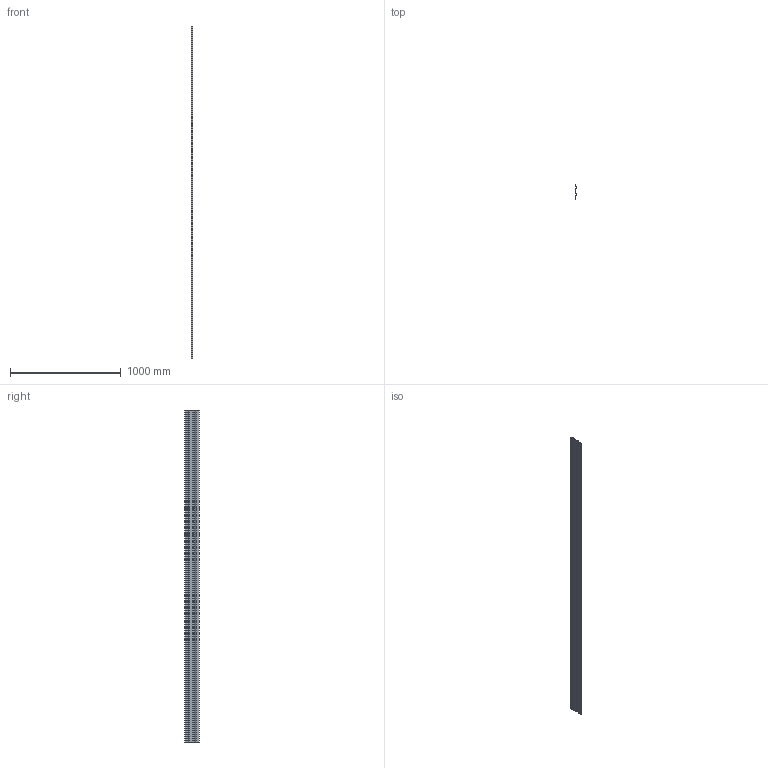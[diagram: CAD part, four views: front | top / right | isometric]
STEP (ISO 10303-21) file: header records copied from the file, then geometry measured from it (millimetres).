
FILE_DESCRIPTION((''),'2;1');
FILE_NAME('S:\Användarkataloger\AndreasA\Mina Inventor filer\Räcken\STEP\sparklist_k130_3000.stp','2010-09-07T13:52:46',('AndreasA'),(''),'Autodesk Inventor 2011','Autodesk Inventor 2011','');
FILE_SCHEMA(('AUTOMOTIVE_DESIGN { 1 0 10303 214 1 1 1 1 }'));
Length unit declared in the file: millimetre
Products named in the file (1): sparklist_k130_3000
Bounding box: 13.47 x 130 x 3000 mm (x, y, z)
Volume: 1095554.6 mm3; surface area: 892174.1 mm2
Topology: 1 solids, 1 shells, 30 faces, 84 edges, 56 vertices
Faces by surface type: plane 18, cylinder 12
Entity records: 998 total; most frequent: CARTESIAN_POINT 171, DIRECTION 170, ORIENTED_EDGE 168, EDGE_CURVE 84, VECTOR 60, LINE 60, VERTEX_POINT 56, AXIS2_PLACEMENT_3D 55
